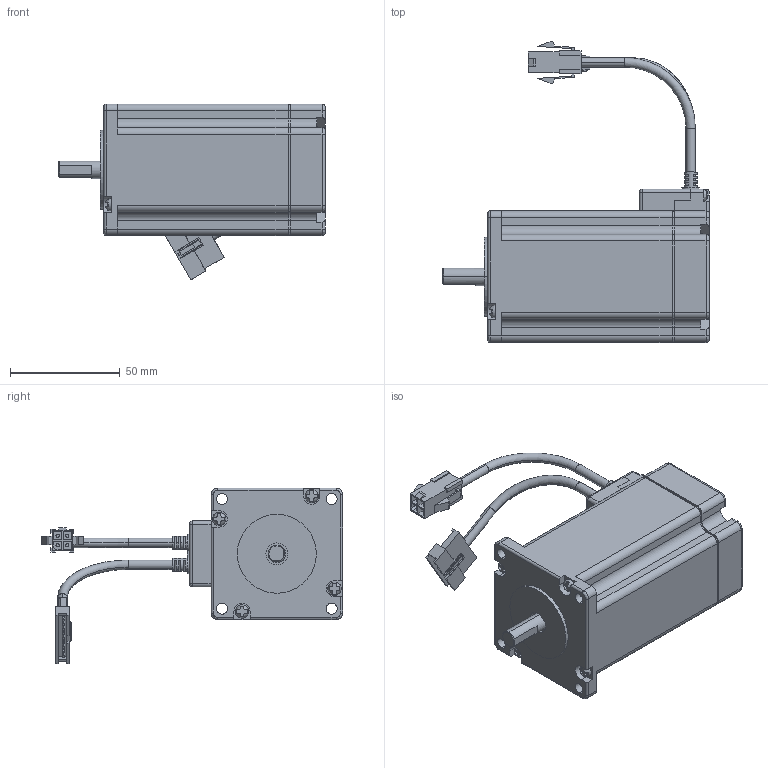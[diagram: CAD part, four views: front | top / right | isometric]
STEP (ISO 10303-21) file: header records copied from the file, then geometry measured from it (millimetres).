
FILE_DESCRIPTION (( 'STEP AP203' ), '1' );
FILE_NAME ('P1A-MO-060-03-R00.STEP', '2015-08-11T02:39:56', ( '' ), ( '' ), 'SwSTEP 2.0', 'SolidWorks 2013', '' );
FILE_SCHEMA (( 'CONFIG_CONTROL_DESIGN' ));
Length unit declared in the file: millimetre
Products named in the file (11): 42陝 賅攪瞪錳摹_ル遽; 42阿 浚内歹 纳捞喉急_钎霖; round cross head screw_ks_KS 1023 RC - M3 x 12-N; PLATE; M41-MO-060-03-R00; 20陝 PCB_ル遽; P1A-MO-060-03-R00; 葆斜啻す 縛囀渦_ル遽; M41-EC-060-01-R00_ル遽; M41-EC-060-03-R00_ル遽; M41-EC-060-02-R00
Assembly tree (15 placements, depth 3):
  P1A-MO-060-03-R00
    PLATE
    20陝 PCB_ル遽
    葆斜啻す 縛囀渦_ル遽
    M41-EC-060-01-R00_ル遽
    M41-EC-060-02-R00
      M41-EC-060-03-R00_ル遽
    42陝 賅攪瞪錳摹_ル遽
    42阿 浚内歹 纳捞喉急_钎霖
    round cross head screw_ks_KS 1023 RC - M3 x 12-N  x6
    M41-MO-060-03-R00
Bounding box: 121.6 x 137.41 x 80.22 mm (x, y, z)
Volume: 298909.7 mm3; surface area: 60941.3 mm2
Topology: 14 solids, 14 shells, 1066 faces, 2763 edges, 1777 vertices
Faces by surface type: plane 606, cylinder 315, cone 73, bspline 68, torus 4
Entity records: 30780 total; most frequent: CARTESIAN_POINT 6655, DIRECTION 4790, ORIENTED_EDGE 4762, EDGE_CURVE 2381, AXIS2_PLACEMENT_3D 1642, VERTEX_POINT 1552, LINE 1506, VECTOR 1506
